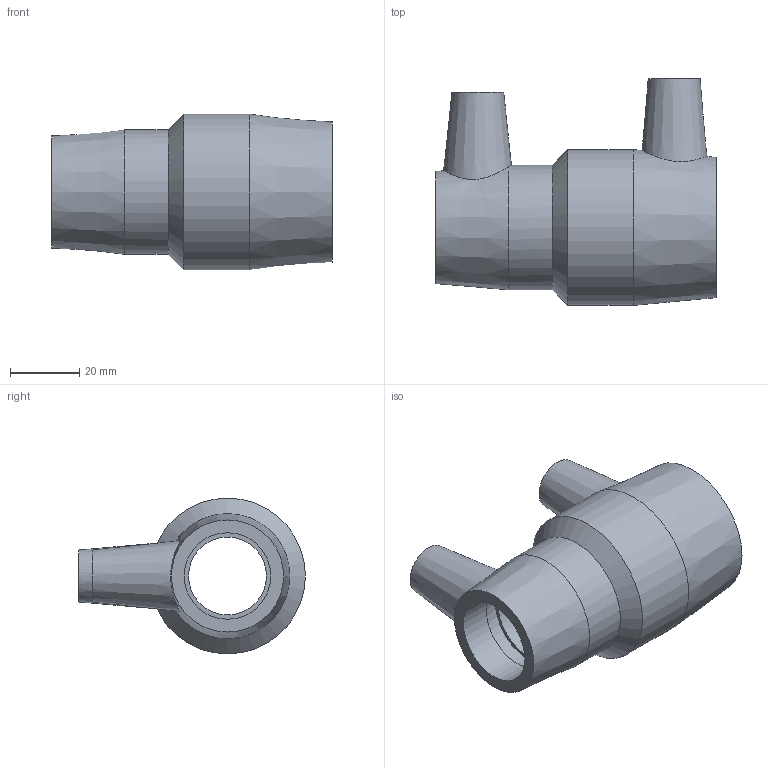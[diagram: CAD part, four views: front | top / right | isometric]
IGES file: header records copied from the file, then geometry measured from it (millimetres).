
Global section: file name: 491104032025.ipt; native system: Autodesk Inventor 2015; preprocessor: unknown; author: KIM; date: 20171106.093716; units: millimetre
Bounding box: 81 x 65.5 x 45 mm (x, y, z)
Volume: 57673.5 mm3; surface area: 22456.4 mm2
Topology: 1 solids, 1 shells, 32 faces, 74 edges, 52 vertices
Faces by surface type: plane 12, revolution 11, cone 5, cylinder 4
Full cylindrical faces by diameter (mm): 4 x2, 36 x1, 45 x1
